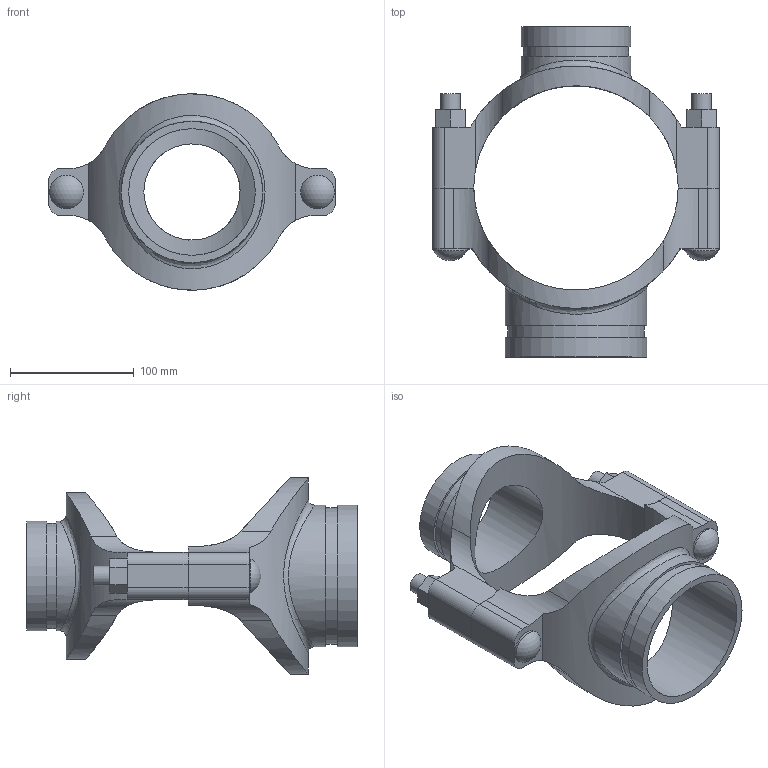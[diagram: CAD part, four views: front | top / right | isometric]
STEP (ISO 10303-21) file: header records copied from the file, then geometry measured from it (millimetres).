
FILE_DESCRIPTION(/* description */ ('VIC MECH-T BRANCH OUTLET CROSS STYLE 920N (GRVD)','CAx-IF Rec.Pracs.---Representation and Presentation of Product Manufacturing Information (PMI)---4.0---2014-10-13'),/* implementation_level */ '2;1');
FILE_NAME(/* name */ 'C:\Users\Vjadhav\AppData\Roaming\Autodesk\ApplicationPlugins\Back Up\Victaulic_IPS_Mechanical-Cross Outlet_Style 920N (OGS)\Victaulic_IPS_Mechanical-Cross Outlet_06.0 (165.1)x03.0x04.0 (150x80x100).stp',/* time_stamp */ '2020-08-06T19:45:50+05:00',/* author */ ('Vjadhav'),/* organization */ ('Victaulic'),/* preprocessor_version */ 'ST-DEVELOPER v17.2',/* originating_system */ 'Autodesk Inventor 2019',/* authorisation */ '');
FILE_SCHEMA (('AP242_MANAGED_MODEL_BASED_3D_ENGINEERING_MIM_LF { 1 0 10303 442 1 1 4 }'));
Length unit declared in the file: inch
Products named in the file (3): 920NG-06.0 (165.1)x03.0x04.0; 920G-06.0 (165.1)x03.0; 920G-06.0 (165.1)x04.0
Assembly tree (2 placements, depth 2):
  920NG-06.0 (165.1)x03.0x04.0
    920G-06.0 (165.1)x03.0
    920G-06.0 (165.1)x04.0
Bounding box: 231.9 x 266.95 x 158.65 mm (x, y, z)
Volume: 830121.5 mm3; surface area: 195707 mm2
Topology: 2 solids, 2 shells, 104 faces, 262 edges, 178 vertices
Faces by surface type: plane 54, cylinder 46, sphere 2, bspline 2
Full cylindrical faces by diameter (mm): 15.875 x4, 27.381 x2, 77.787 x1, 84.938 x1, 88.9 x2, 102.394 x1, 110.084 x1, 114.3 x2
Entity records: 4278 total; most frequent: CARTESIAN_POINT 1505, DIRECTION 532, ORIENTED_EDGE 524, EDGE_CURVE 262, AXIS2_PLACEMENT_3D 193, VERTEX_POINT 178, LINE 146, VECTOR 146
